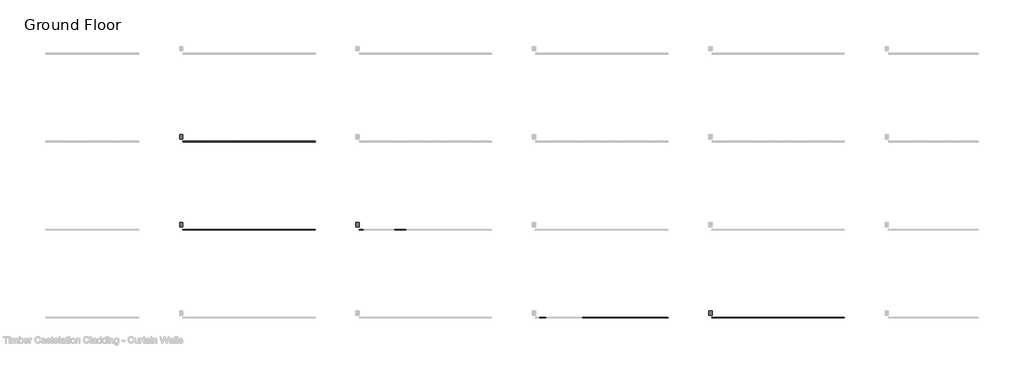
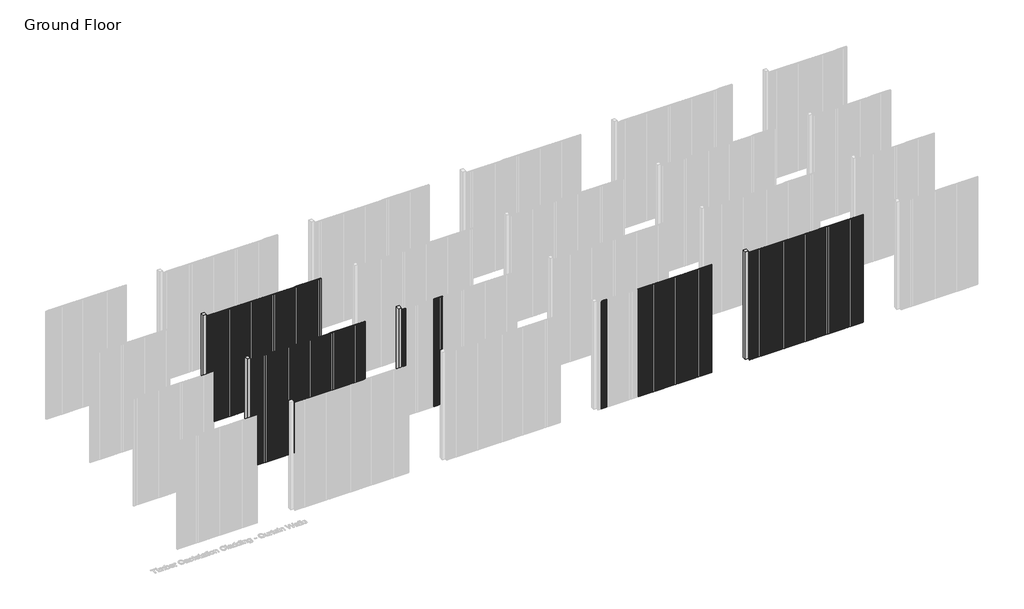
# One storey, part 40 of 350: 141 members, 4 plates.
"""IFC4 building model written with IfcOpenShell, lengths in millimetres."""

from ifc_helpers import new_model, si_unit, origin, place, context, project, spatial, transform, mapped, element, save
from components import rectangular_mullion_14973cdb, rectangular_mullion_4aa68164, rectangular_mullion_624eee80, empty_system_panel_empty_cbd4e42b

model = new_model("IFC4")

# Units and contexts
model_context = context("Model", 3, world=origin())
ifc_project = project(units=[si_unit("LENGTHUNIT", "METRE", prefix="MILLI")], contexts=[model_context])

# Site, building, storey
site = spatial("IfcSite", under=ifc_project)
building = spatial("IfcBuilding", under=site)
storey = spatial("IfcBuildingStorey", under=building, Name="Ground Floor", Elevation=0.0)

# Members
placement = place(None, origin())
rectangular_mullion_shape = rectangular_mullion_14973cdb(model_context)
element("IfcMember", 1, ObjectType="Rectangular Mullion : Cladding_Timber_Modinex_Castelation_81x18_Blackbutt", at=placement, inside=storey, context=model_context, shape_type="MappedRepresentation", body=[
    mapped(rectangular_mullion_shape, transform((34536.4361642, 24968.2978302, 0.0), x_axis=(1.0, 0.0, 0.0), y_axis=(0.0, -1.0, 0.0), z_axis=(0.0, 0.0, -1.0))),
])
element("IfcMember", 2, ObjectType="Rectangular Mullion : Cladding_Timber_Modinex_Castelation_81x18_Blackbutt", at=placement, inside=storey, context=model_context, shape_type="MappedRepresentation", body=[
    mapped(rectangular_mullion_shape, transform((34617.4361642, 24968.2978302, 0.0), x_axis=(1.0, 0.0, 0.0), y_axis=(0.0, -1.0, 0.0), z_axis=(0.0, 0.0, -1.0))),
])
element("IfcMember", 3, ObjectType="Rectangular Mullion : Cladding_Timber_Modinex_Castelation_81x18_Blackbutt", at=placement, inside=storey, context=model_context, shape_type="MappedRepresentation", body=[
    mapped(rectangular_mullion_shape, transform((34698.4361642, 24968.2978302, 0.0), x_axis=(1.0, 0.0, 0.0), y_axis=(0.0, -1.0, 0.0), z_axis=(0.0, 0.0, -1.0))),
])
element("IfcMember", 4, ObjectType="Rectangular Mullion : Cladding_Timber_Modinex_Castelation_81x18_Blackbutt", at=placement, inside=storey, context=model_context, shape_type="MappedRepresentation", body=[
    mapped(rectangular_mullion_shape, transform((34779.4361642, 24968.2978302, 0.0), x_axis=(1.0, 0.0, 0.0), y_axis=(0.0, -1.0, 0.0), z_axis=(0.0, 0.0, -1.0))),
])
element("IfcMember", 5, ObjectType="Rectangular Mullion : Cladding_Timber_Modinex_Castelation_81x18_Blackbutt", at=placement, inside=storey, context=model_context, shape_type="MappedRepresentation", body=[
    mapped(rectangular_mullion_shape, transform((34860.4361642, 24968.2978302, 0.0), x_axis=(1.0, 0.0, 0.0), y_axis=(0.0, -1.0, 0.0), z_axis=(0.0, 0.0, -1.0))),
])
element("IfcMember", 6, ObjectType="Rectangular Mullion : Cladding_Timber_Modinex_Castelation_81x18_Blackbutt", at=placement, inside=storey, context=model_context, shape_type="MappedRepresentation", body=[
    mapped(rectangular_mullion_shape, transform((34941.4361642, 24968.2978302, 0.0), x_axis=(1.0, 0.0, 0.0), y_axis=(0.0, -1.0, 0.0), z_axis=(0.0, 0.0, -1.0))),
])
element("IfcMember", 7, ObjectType="Rectangular Mullion : Cladding_Timber_Modinex_Castelation_81x18_Blackbutt", at=placement, inside=storey, context=model_context, shape_type="MappedRepresentation", body=[
    mapped(rectangular_mullion_shape, transform((35022.4361642, 24968.2978302, 0.0), x_axis=(1.0, 0.0, 0.0), y_axis=(0.0, -1.0, 0.0), z_axis=(0.0, 0.0, -1.0))),
])
element("IfcMember", 8, ObjectType="Rectangular Mullion : Cladding_Timber_Modinex_Castelation_81x18_Blackbutt", at=placement, inside=storey, context=model_context, shape_type="MappedRepresentation", body=[
    mapped(rectangular_mullion_shape, transform((35103.4361642, 24968.2978302, 0.0), x_axis=(1.0, 0.0, 0.0), y_axis=(0.0, -1.0, 0.0), z_axis=(0.0, 0.0, -1.0))),
])
element("IfcMember", 9, ObjectType="Rectangular Mullion : Cladding_Timber_Modinex_Castelation_81x18_Blackbutt", at=placement, inside=storey, context=model_context, shape_type="MappedRepresentation", body=[
    mapped(rectangular_mullion_shape, transform((35184.4361642, 24968.2978302, 0.0), x_axis=(1.0, 0.0, 0.0), y_axis=(0.0, -1.0, 0.0), z_axis=(0.0, 0.0, -1.0))),
])
element("IfcMember", 10, ObjectType="Rectangular Mullion : Cladding_Timber_Modinex_Castelation_81x18_Blackbutt", at=placement, inside=storey, context=model_context, shape_type="MappedRepresentation", body=[
    mapped(rectangular_mullion_shape, transform((35265.4361642, 24968.2978302, 0.0), x_axis=(1.0, 0.0, 0.0), y_axis=(0.0, -1.0, 0.0), z_axis=(0.0, 0.0, -1.0))),
])
element("IfcMember", 11, ObjectType="Rectangular Mullion : Cladding_Timber_Modinex_Castelation_81x18_Blackbutt", at=placement, inside=storey, context=model_context, shape_type="MappedRepresentation", body=[
    mapped(rectangular_mullion_shape, transform((35346.4361642, 24968.2978302, 0.0), x_axis=(1.0, 0.0, 0.0), y_axis=(0.0, -1.0, 0.0), z_axis=(0.0, 0.0, -1.0))),
])
element("IfcMember", 12, ObjectType="Rectangular Mullion : Cladding_Timber_Modinex_Castelation_81x18_Blackbutt", at=placement, inside=storey, context=model_context, shape_type="MappedRepresentation", body=[
    mapped(rectangular_mullion_shape, transform((35427.4361642, 24968.2978302, 0.0), x_axis=(1.0, 0.0, 0.0), y_axis=(0.0, -1.0, 0.0), z_axis=(0.0, 0.0, -1.0))),
])
element("IfcMember", 13, ObjectType="Rectangular Mullion : Cladding_Timber_Modinex_Castelation_81x18_Blackbutt", at=placement, inside=storey, context=model_context, shape_type="MappedRepresentation", body=[
    mapped(rectangular_mullion_shape, transform((35508.4361642, 24968.2978302, 0.0), x_axis=(1.0, 0.0, 0.0), y_axis=(0.0, -1.0, 0.0), z_axis=(0.0, 0.0, -1.0))),
])
element("IfcMember", 14, ObjectType="Rectangular Mullion : Cladding_Timber_Modinex_Castelation_81x18_Blackbutt", at=placement, inside=storey, context=model_context, shape_type="MappedRepresentation", body=[
    mapped(rectangular_mullion_shape, transform((35589.4361642, 24968.2978302, 0.0), x_axis=(1.0, 0.0, 0.0), y_axis=(0.0, -1.0, 0.0), z_axis=(0.0, 0.0, -1.0))),
])
element("IfcMember", 15, ObjectType="Rectangular Mullion : Cladding_Timber_Modinex_Castelation_81x18_Blackbutt", at=placement, inside=storey, context=model_context, shape_type="MappedRepresentation", body=[
    mapped(rectangular_mullion_shape, transform((35670.4361642, 24968.2978302, 0.0), x_axis=(1.0, 0.0, 0.0), y_axis=(0.0, -1.0, 0.0), z_axis=(0.0, 0.0, -1.0))),
])
element("IfcMember", 16, ObjectType="Rectangular Mullion : Cladding_Timber_Modinex_Castelation_81x18_Blackbutt", at=placement, inside=storey, context=model_context, shape_type="MappedRepresentation", body=[
    mapped(rectangular_mullion_shape, transform((35751.4361642, 24968.2978302, 0.0), x_axis=(1.0, 0.0, 0.0), y_axis=(0.0, -1.0, 0.0), z_axis=(0.0, 0.0, -1.0))),
])
element("IfcMember", 17, ObjectType="Rectangular Mullion : Cladding_Timber_Modinex_Castelation_81x18_Blackbutt", at=placement, inside=storey, context=model_context, shape_type="MappedRepresentation", body=[
    mapped(rectangular_mullion_shape, transform((35832.4361642, 24968.2978302, 0.0), x_axis=(1.0, 0.0, 0.0), y_axis=(0.0, -1.0, 0.0), z_axis=(0.0, 0.0, -1.0))),
])
element("IfcMember", 18, ObjectType="Rectangular Mullion : Cladding_Timber_Modinex_Castelation_81x18_Blackbutt", at=placement, inside=storey, context=model_context, shape_type="MappedRepresentation", body=[
    mapped(rectangular_mullion_shape, transform((35913.4361642, 24968.2978302, 0.0), x_axis=(1.0, 0.0, 0.0), y_axis=(0.0, -1.0, 0.0), z_axis=(0.0, 0.0, -1.0))),
])
element("IfcMember", 19, ObjectType="Rectangular Mullion : Cladding_Timber_Modinex_Castelation_81x18_Blackbutt", at=placement, inside=storey, context=model_context, shape_type="MappedRepresentation", body=[
    mapped(rectangular_mullion_shape, transform((34455.4361642, 24968.2978302, 0.0), x_axis=(1.0, 0.0, 0.0), y_axis=(0.0, -1.0, 0.0), z_axis=(0.0, 0.0, -1.0))),
])
element("IfcMember", 20, ObjectType="Rectangular Mullion : Cladding_Timber_Modinex_Castelation_81x18_Blackbutt", at=placement, inside=storey, context=model_context, shape_type="MappedRepresentation", body=[
    mapped(rectangular_mullion_shape, transform((34374.4361642, 24968.2978302, 0.0), x_axis=(1.0, 0.0, 0.0), y_axis=(0.0, -1.0, 0.0), z_axis=(0.0, 0.0, -1.0))),
])
element("IfcMember", 21, ObjectType="Rectangular Mullion : Cladding_Timber_Modinex_Castelation_81x18_Blackbutt", at=placement, inside=storey, context=model_context, shape_type="MappedRepresentation", body=[
    mapped(rectangular_mullion_shape, transform((34293.4361642, 24968.2978302, 0.0), x_axis=(1.0, 0.0, 0.0), y_axis=(0.0, -1.0, 0.0), z_axis=(0.0, 0.0, -1.0))),
])
element("IfcMember", 22, ObjectType="Rectangular Mullion : Cladding_Timber_Modinex_Castelation_81x18_Blackbutt", at=placement, inside=storey, context=model_context, shape_type="MappedRepresentation", body=[
    mapped(rectangular_mullion_shape, transform((34212.4361642, 24968.2978302, 0.0), x_axis=(1.0, 0.0, 0.0), y_axis=(0.0, -1.0, 0.0), z_axis=(0.0, 0.0, -1.0))),
])
element("IfcMember", 23, ObjectType="Rectangular Mullion : Cladding_Timber_Modinex_Castelation_81x18_Blackbutt", at=placement, inside=storey, context=model_context, shape_type="MappedRepresentation", body=[
    mapped(rectangular_mullion_shape, transform((34131.4361642, 24968.2978302, 0.0), x_axis=(1.0, 0.0, 0.0), y_axis=(0.0, -1.0, 0.0), z_axis=(0.0, 0.0, -1.0))),
])
element("IfcMember", 24, ObjectType="Rectangular Mullion : Cladding_Timber_Modinex_Castelation_81x18_Blackbutt", at=placement, inside=storey, context=model_context, shape_type="MappedRepresentation", body=[
    mapped(rectangular_mullion_shape, transform((34050.4361642, 24968.2978302, 0.0), x_axis=(1.0, 0.0, 0.0), y_axis=(0.0, -1.0, 0.0), z_axis=(0.0, 0.0, -1.0))),
])
element("IfcMember", 25, ObjectType="Rectangular Mullion : Cladding_Timber_Modinex_Castelation_81x18_Blackbutt", at=placement, inside=storey, context=model_context, shape_type="MappedRepresentation", body=[
    mapped(rectangular_mullion_shape, transform((33969.4361642, 24968.2978302, 0.0), x_axis=(1.0, 0.0, 0.0), y_axis=(0.0, -1.0, 0.0), z_axis=(0.0, 0.0, -1.0))),
])
element("IfcMember", 26, ObjectType="Rectangular Mullion : Cladding_Timber_Modinex_Castelation_81x18_Blackbutt", at=placement, inside=storey, context=model_context, shape_type="MappedRepresentation", body=[
    mapped(rectangular_mullion_shape, transform((33888.4361642, 24968.2978302, 0.0), x_axis=(1.0, 0.0, 0.0), y_axis=(0.0, -1.0, 0.0), z_axis=(0.0, 0.0, -1.0))),
])
element("IfcMember", 27, ObjectType="Rectangular Mullion : Cladding_Timber_Modinex_Castelation_81x18_Blackbutt", at=placement, inside=storey, context=model_context, shape_type="MappedRepresentation", body=[
    mapped(rectangular_mullion_shape, transform((33807.4361642, 24968.2978302, 0.0), x_axis=(1.0, 0.0, 0.0), y_axis=(0.0, -1.0, 0.0), z_axis=(0.0, 0.0, -1.0))),
])
element("IfcMember", 28, ObjectType="Rectangular Mullion : Cladding_Timber_Modinex_Castelation_81x18_Blackbutt", at=placement, inside=storey, context=model_context, shape_type="MappedRepresentation", body=[
    mapped(rectangular_mullion_shape, transform((33726.4361642, 24968.2978302, 0.0), x_axis=(1.0, 0.0, 0.0), y_axis=(0.0, -1.0, 0.0), z_axis=(0.0, 0.0, -1.0))),
])
element("IfcMember", 29, ObjectType="Rectangular Mullion : Cladding_Timber_Modinex_Castelation_81x18_Blackbutt", at=placement, inside=storey, context=model_context, shape_type="MappedRepresentation", body=[
    mapped(rectangular_mullion_shape, transform((33645.4361642, 24968.2978302, 0.0), x_axis=(1.0, 0.0, 0.0), y_axis=(0.0, -1.0, 0.0), z_axis=(0.0, 0.0, -1.0))),
])
element("IfcMember", 30, ObjectType="Rectangular Mullion : Cladding_Timber_Modinex_Castelation_81x18_Blackbutt", at=placement, inside=storey, context=model_context, shape_type="MappedRepresentation", body=[
    mapped(rectangular_mullion_shape, transform((33564.4361642, 24968.2978302, 0.0), x_axis=(1.0, 0.0, 0.0), y_axis=(0.0, -1.0, 0.0), z_axis=(0.0, 0.0, -1.0))),
])
element("IfcMember", 31, ObjectType="Rectangular Mullion : Cladding_Timber_Modinex_Castelation_81x18_Blackbutt", at=placement, inside=storey, context=model_context, shape_type="MappedRepresentation", body=[
    mapped(rectangular_mullion_shape, transform((33483.4361642, 24968.2978302, 0.0), x_axis=(1.0, 0.0, 0.0), y_axis=(0.0, -1.0, 0.0), z_axis=(0.0, 0.0, -1.0))),
])
element("IfcMember", 32, ObjectType="Rectangular Mullion : Cladding_Timber_Modinex_Castelation_81x18_Blackbutt", at=placement, inside=storey, context=model_context, shape_type="MappedRepresentation", body=[
    mapped(rectangular_mullion_shape, transform((33402.4361642, 24968.2978302, 0.0), x_axis=(1.0, 0.0, 0.0), y_axis=(0.0, -1.0, 0.0), z_axis=(0.0, 0.0, -1.0))),
])
element("IfcMember", 33, ObjectType="Rectangular Mullion : Cladding_Timber_Modinex_Castelation_81x18_Blackbutt", at=placement, inside=storey, context=model_context, shape_type="MappedRepresentation", body=[
    mapped(rectangular_mullion_shape, transform((33321.4361642, 24968.2978302, 0.0), x_axis=(1.0, 0.0, 0.0), y_axis=(0.0, -1.0, 0.0), z_axis=(0.0, 0.0, -1.0))),
])
element("IfcMember", 34, ObjectType="Rectangular Mullion : Cladding_Timber_Modinex_Castelation_81x18_Blackbutt", at=placement, inside=storey, context=model_context, shape_type="MappedRepresentation", body=[
    mapped(rectangular_mullion_shape, transform((33240.4361642, 24968.2978302, 0.0), x_axis=(1.0, 0.0, 0.0), y_axis=(0.0, -1.0, 0.0), z_axis=(0.0, 0.0, -1.0))),
])
element("IfcMember", 35, ObjectType="Rectangular Mullion : Cladding_Timber_Modinex_Castelation_81x18_Blackbutt", at=placement, inside=storey, context=model_context, shape_type="MappedRepresentation", body=[
    mapped(rectangular_mullion_shape, transform((33159.4361642, 24968.2978302, 0.0), x_axis=(1.0, 0.0, 0.0), y_axis=(0.0, -1.0, 0.0), z_axis=(0.0, 0.0, -1.0))),
])
element("IfcMember", 36, ObjectType="Rectangular Mullion : Cladding_Timber_Modinex_Castelation_81x18_Blackbutt", at=placement, inside=storey, context=model_context, shape_type="MappedRepresentation", body=[
    mapped(rectangular_mullion_shape, transform((33078.4361642, 24968.2978302, 0.0), x_axis=(1.0, 0.0, 0.0), y_axis=(0.0, -1.0, 0.0), z_axis=(0.0, 0.0, -1.0))),
])
element("IfcMember", 37, ObjectType="Rectangular Mullion : Cladding_Timber_Modinex_Castelation_81x18_Blackbutt", at=placement, inside=storey, context=model_context, shape_type="MappedRepresentation", body=[
    mapped(rectangular_mullion_shape, transform((32997.4361642, 24968.2978302, 0.0), x_axis=(1.0, 0.0, 0.0), y_axis=(0.0, -1.0, 0.0), z_axis=(0.0, 0.0, -1.0))),
])
rectangular_mullion_2_shape = rectangular_mullion_4aa68164(model_context)
element("IfcMember", 38, ObjectType="Rectangular Mullion : Cladding_Timber_Modinex_Castelation_81x12_Ironbark", at=placement, inside=storey, context=model_context, shape_type="MappedRepresentation", body=[
    mapped(rectangular_mullion_2_shape, transform((42536.4361642, 22968.2978302, 0.0), x_axis=(1.0, 0.0, 0.0), y_axis=(0.0, -1.0, 0.0), z_axis=(0.0, 0.0, -1.0))),
])
element("IfcMember", 39, ObjectType="Rectangular Mullion : Cladding_Timber_Modinex_Castelation_81x12_Ironbark", at=placement, inside=storey, context=model_context, shape_type="MappedRepresentation", body=[
    mapped(rectangular_mullion_2_shape, transform((42617.4361642, 22968.2978302, 0.0), x_axis=(1.0, 0.0, 0.0), y_axis=(0.0, -1.0, 0.0), z_axis=(0.0, 0.0, -1.0))),
])
element("IfcMember", 40, ObjectType="Rectangular Mullion : Cladding_Timber_Modinex_Castelation_81x12_Ironbark", at=placement, inside=storey, context=model_context, shape_type="MappedRepresentation", body=[
    mapped(rectangular_mullion_2_shape, transform((42698.4361642, 22968.2978302, 0.0), x_axis=(1.0, 0.0, 0.0), y_axis=(0.0, -1.0, 0.0), z_axis=(0.0, 0.0, -1.0))),
])
element("IfcMember", 41, ObjectType="Rectangular Mullion : Cladding_Timber_Modinex_Castelation_81x12_Ironbark", at=placement, inside=storey, context=model_context, shape_type="MappedRepresentation", body=[
    mapped(rectangular_mullion_2_shape, transform((42779.4361642, 22968.2978302, 0.0), x_axis=(1.0, 0.0, 0.0), y_axis=(0.0, -1.0, 0.0), z_axis=(0.0, 0.0, -1.0))),
])
element("IfcMember", 42, ObjectType="Rectangular Mullion : Cladding_Timber_Modinex_Castelation_81x12_Ironbark", at=placement, inside=storey, context=model_context, shape_type="MappedRepresentation", body=[
    mapped(rectangular_mullion_2_shape, transform((42860.4361642, 22968.2978302, 0.0), x_axis=(1.0, 0.0, 0.0), y_axis=(0.0, -1.0, 0.0), z_axis=(0.0, 0.0, -1.0))),
])
element("IfcMember", 43, ObjectType="Rectangular Mullion : Cladding_Timber_Modinex_Castelation_81x12_Ironbark", at=placement, inside=storey, context=model_context, shape_type="MappedRepresentation", body=[
    mapped(rectangular_mullion_2_shape, transform((42941.4361642, 22968.2978302, 0.0), x_axis=(1.0, 0.0, 0.0), y_axis=(0.0, -1.0, 0.0), z_axis=(0.0, 0.0, -1.0))),
])
element("IfcMember", 44, ObjectType="Rectangular Mullion : Cladding_Timber_Modinex_Castelation_81x12_Ironbark", at=placement, inside=storey, context=model_context, shape_type="MappedRepresentation", body=[
    mapped(rectangular_mullion_2_shape, transform((43022.4361642, 22968.2978302, 0.0), x_axis=(1.0, 0.0, 0.0), y_axis=(0.0, -1.0, 0.0), z_axis=(0.0, 0.0, -1.0))),
])
element("IfcMember", 45, ObjectType="Rectangular Mullion : Cladding_Timber_Modinex_Castelation_81x12_Ironbark", at=placement, inside=storey, context=model_context, shape_type="MappedRepresentation", body=[
    mapped(rectangular_mullion_2_shape, transform((43103.4361642, 22968.2978302, 0.0), x_axis=(1.0, 0.0, 0.0), y_axis=(0.0, -1.0, 0.0), z_axis=(0.0, 0.0, -1.0))),
])
element("IfcMember", 46, ObjectType="Rectangular Mullion : Cladding_Timber_Modinex_Castelation_81x12_Ironbark", at=placement, inside=storey, context=model_context, shape_type="MappedRepresentation", body=[
    mapped(rectangular_mullion_2_shape, transform((43184.4361642, 22968.2978302, 0.0), x_axis=(1.0, 0.0, 0.0), y_axis=(0.0, -1.0, 0.0), z_axis=(0.0, 0.0, -1.0))),
])
element("IfcMember", 47, ObjectType="Rectangular Mullion : Cladding_Timber_Modinex_Castelation_81x12_Ironbark", at=placement, inside=storey, context=model_context, shape_type="MappedRepresentation", body=[
    mapped(rectangular_mullion_2_shape, transform((43265.4361642, 22968.2978302, 0.0), x_axis=(1.0, 0.0, 0.0), y_axis=(0.0, -1.0, 0.0), z_axis=(0.0, 0.0, -1.0))),
])
element("IfcMember", 48, ObjectType="Rectangular Mullion : Cladding_Timber_Modinex_Castelation_81x12_Ironbark", at=placement, inside=storey, context=model_context, shape_type="MappedRepresentation", body=[
    mapped(rectangular_mullion_2_shape, transform((43346.4361642, 22968.2978302, 0.0), x_axis=(1.0, 0.0, 0.0), y_axis=(0.0, -1.0, 0.0), z_axis=(0.0, 0.0, -1.0))),
])
element("IfcMember", 49, ObjectType="Rectangular Mullion : Cladding_Timber_Modinex_Castelation_81x12_Ironbark", at=placement, inside=storey, context=model_context, shape_type="MappedRepresentation", body=[
    mapped(rectangular_mullion_2_shape, transform((43427.4361642, 22968.2978302, 0.0), x_axis=(1.0, 0.0, 0.0), y_axis=(0.0, -1.0, 0.0), z_axis=(0.0, 0.0, -1.0))),
])
element("IfcMember", 50, ObjectType="Rectangular Mullion : Cladding_Timber_Modinex_Castelation_81x12_Ironbark", at=placement, inside=storey, context=model_context, shape_type="MappedRepresentation", body=[
    mapped(rectangular_mullion_2_shape, transform((43508.4361642, 22968.2978302, 0.0), x_axis=(1.0, 0.0, 0.0), y_axis=(0.0, -1.0, 0.0), z_axis=(0.0, 0.0, -1.0))),
])
element("IfcMember", 51, ObjectType="Rectangular Mullion : Cladding_Timber_Modinex_Castelation_81x12_Ironbark", at=placement, inside=storey, context=model_context, shape_type="MappedRepresentation", body=[
    mapped(rectangular_mullion_2_shape, transform((43589.4361642, 22968.2978302, 0.0), x_axis=(1.0, 0.0, 0.0), y_axis=(0.0, -1.0, 0.0), z_axis=(0.0, 0.0, -1.0))),
])
element("IfcMember", 52, ObjectType="Rectangular Mullion : Cladding_Timber_Modinex_Castelation_81x12_Ironbark", at=placement, inside=storey, context=model_context, shape_type="MappedRepresentation", body=[
    mapped(rectangular_mullion_2_shape, transform((43670.4361642, 22968.2978302, 0.0), x_axis=(1.0, 0.0, 0.0), y_axis=(0.0, -1.0, 0.0), z_axis=(0.0, 0.0, -1.0))),
])
element("IfcMember", 53, ObjectType="Rectangular Mullion : Cladding_Timber_Modinex_Castelation_81x12_Ironbark", at=placement, inside=storey, context=model_context, shape_type="MappedRepresentation", body=[
    mapped(rectangular_mullion_2_shape, transform((43751.4361642, 22968.2978302, 0.0), x_axis=(1.0, 0.0, 0.0), y_axis=(0.0, -1.0, 0.0), z_axis=(0.0, 0.0, -1.0))),
])
element("IfcMember", 54, ObjectType="Rectangular Mullion : Cladding_Timber_Modinex_Castelation_81x12_Ironbark", at=placement, inside=storey, context=model_context, shape_type="MappedRepresentation", body=[
    mapped(rectangular_mullion_2_shape, transform((43832.4361642, 22968.2978302, 0.0), x_axis=(1.0, 0.0, 0.0), y_axis=(0.0, -1.0, 0.0), z_axis=(0.0, 0.0, -1.0))),
])
element("IfcMember", 55, ObjectType="Rectangular Mullion : Cladding_Timber_Modinex_Castelation_81x12_Ironbark", at=placement, inside=storey, context=model_context, shape_type="MappedRepresentation", body=[
    mapped(rectangular_mullion_2_shape, transform((43913.4361642, 22968.2978302, 0.0), x_axis=(1.0, 0.0, 0.0), y_axis=(0.0, -1.0, 0.0), z_axis=(0.0, 0.0, -1.0))),
])
element("IfcMember", 56, ObjectType="Rectangular Mullion : Cladding_Timber_Modinex_Castelation_81x12_Ironbark", at=placement, inside=storey, context=model_context, shape_type="MappedRepresentation", body=[
    mapped(rectangular_mullion_2_shape, transform((42455.4361642, 22968.2978302, 0.0), x_axis=(1.0, 0.0, 0.0), y_axis=(0.0, -1.0, 0.0), z_axis=(0.0, 0.0, -1.0))),
])
element("IfcMember", 57, ObjectType="Rectangular Mullion : Cladding_Timber_Modinex_Castelation_81x12_Ironbark", at=placement, inside=storey, context=model_context, shape_type="MappedRepresentation", body=[
    mapped(rectangular_mullion_2_shape, transform((42374.4361642, 22968.2978302, 0.0), x_axis=(1.0, 0.0, 0.0), y_axis=(0.0, -1.0, 0.0), z_axis=(0.0, 0.0, -1.0))),
])
element("IfcMember", 58, ObjectType="Rectangular Mullion : Cladding_Timber_Modinex_Castelation_81x12_Ironbark", at=placement, inside=storey, context=model_context, shape_type="MappedRepresentation", body=[
    mapped(rectangular_mullion_2_shape, transform((42293.4361642, 22968.2978302, 0.0), x_axis=(1.0, 0.0, 0.0), y_axis=(0.0, -1.0, 0.0), z_axis=(0.0, 0.0, -1.0))),
])
element("IfcMember", 59, ObjectType="Rectangular Mullion : Cladding_Timber_Modinex_Castelation_81x12_Ironbark", at=placement, inside=storey, context=model_context, shape_type="MappedRepresentation", body=[
    mapped(rectangular_mullion_2_shape, transform((42212.4361642, 22968.2978302, 0.0), x_axis=(1.0, 0.0, 0.0), y_axis=(0.0, -1.0, 0.0), z_axis=(0.0, 0.0, -1.0))),
])
element("IfcMember", 60, ObjectType="Rectangular Mullion : Cladding_Timber_Modinex_Castelation_81x12_Ironbark", at=placement, inside=storey, context=model_context, shape_type="MappedRepresentation", body=[
    mapped(rectangular_mullion_2_shape, transform((42131.4361642, 22968.2978302, 0.0), x_axis=(1.0, 0.0, 0.0), y_axis=(0.0, -1.0, 0.0), z_axis=(0.0, 0.0, -1.0))),
])
element("IfcMember", 61, ObjectType="Rectangular Mullion : Cladding_Timber_Modinex_Castelation_81x12_Ironbark", at=placement, inside=storey, context=model_context, shape_type="MappedRepresentation", body=[
    mapped(rectangular_mullion_2_shape, transform((42050.4361642, 22968.2978302, 0.0), x_axis=(1.0, 0.0, 0.0), y_axis=(0.0, -1.0, 0.0), z_axis=(0.0, 0.0, -1.0))),
])
element("IfcMember", 62, ObjectType="Rectangular Mullion : Cladding_Timber_Modinex_Castelation_81x12_Ironbark", at=placement, inside=storey, context=model_context, shape_type="MappedRepresentation", body=[
    mapped(rectangular_mullion_2_shape, transform((41159.4361642, 22968.2978302, 0.0), x_axis=(1.0, 0.0, 0.0), y_axis=(0.0, -1.0, 0.0), z_axis=(0.0, 0.0, -1.0))),
])
element("IfcMember", 63, ObjectType="Rectangular Mullion : Cladding_Timber_Modinex_Castelation_81x12_Ironbark", at=placement, inside=storey, context=model_context, shape_type="MappedRepresentation", body=[
    mapped(rectangular_mullion_2_shape, transform((41078.4361642, 22968.2978302, 0.0), x_axis=(1.0, 0.0, 0.0), y_axis=(0.0, -1.0, 0.0), z_axis=(0.0, 0.0, -1.0))),
])
element("IfcMember", 64, ObjectType="Rectangular Mullion : Cladding_Timber_Modinex_Castelation_81x12_SpottedGum", at=placement, inside=storey, context=model_context, shape_type="MappedRepresentation", body=[
    mapped(rectangular_mullion_2_shape, transform((46536.4361642, 22968.2978302, 0.0), x_axis=(1.0, 0.0, 0.0), y_axis=(0.0, -1.0, 0.0), z_axis=(0.0, 0.0, -1.0))),
])
element("IfcMember", 65, ObjectType="Rectangular Mullion : Cladding_Timber_Modinex_Castelation_81x12_SpottedGum", at=placement, inside=storey, context=model_context, shape_type="MappedRepresentation", body=[
    mapped(rectangular_mullion_2_shape, transform((46617.4361642, 22968.2978302, 0.0), x_axis=(1.0, 0.0, 0.0), y_axis=(0.0, -1.0, 0.0), z_axis=(0.0, 0.0, -1.0))),
])
element("IfcMember", 66, ObjectType="Rectangular Mullion : Cladding_Timber_Modinex_Castelation_81x12_SpottedGum", at=placement, inside=storey, context=model_context, shape_type="MappedRepresentation", body=[
    mapped(rectangular_mullion_2_shape, transform((46698.4361642, 22968.2978302, 0.0), x_axis=(1.0, 0.0, 0.0), y_axis=(0.0, -1.0, 0.0), z_axis=(0.0, 0.0, -1.0))),
])
element("IfcMember", 67, ObjectType="Rectangular Mullion : Cladding_Timber_Modinex_Castelation_81x12_SpottedGum", at=placement, inside=storey, context=model_context, shape_type="MappedRepresentation", body=[
    mapped(rectangular_mullion_2_shape, transform((46779.4361642, 22968.2978302, 0.0), x_axis=(1.0, 0.0, 0.0), y_axis=(0.0, -1.0, 0.0), z_axis=(0.0, 0.0, -1.0))),
])
element("IfcMember", 68, ObjectType="Rectangular Mullion : Cladding_Timber_Modinex_Castelation_81x12_SpottedGum", at=placement, inside=storey, context=model_context, shape_type="MappedRepresentation", body=[
    mapped(rectangular_mullion_2_shape, transform((46860.4361642, 22968.2978302, 0.0), x_axis=(1.0, 0.0, 0.0), y_axis=(0.0, -1.0, 0.0), z_axis=(0.0, 0.0, -1.0))),
])
element("IfcMember", 69, ObjectType="Rectangular Mullion : Cladding_Timber_Modinex_Castelation_81x12_SpottedGum", at=placement, inside=storey, context=model_context, shape_type="MappedRepresentation", body=[
    mapped(rectangular_mullion_2_shape, transform((46941.4361642, 22968.2978302, 0.0), x_axis=(1.0, 0.0, 0.0), y_axis=(0.0, -1.0, 0.0), z_axis=(0.0, 0.0, -1.0))),
])
element("IfcMember", 70, ObjectType="Rectangular Mullion : Cladding_Timber_Modinex_Castelation_81x12_SpottedGum", at=placement, inside=storey, context=model_context, shape_type="MappedRepresentation", body=[
    mapped(rectangular_mullion_2_shape, transform((47022.4361642, 22968.2978302, 0.0), x_axis=(1.0, 0.0, 0.0), y_axis=(0.0, -1.0, 0.0), z_axis=(0.0, 0.0, -1.0))),
])
element("IfcMember", 71, ObjectType="Rectangular Mullion : Cladding_Timber_Modinex_Castelation_81x12_SpottedGum", at=placement, inside=storey, context=model_context, shape_type="MappedRepresentation", body=[
    mapped(rectangular_mullion_2_shape, transform((47103.4361642, 22968.2978302, 0.0), x_axis=(1.0, 0.0, 0.0), y_axis=(0.0, -1.0, 0.0), z_axis=(0.0, 0.0, -1.0))),
])
element("IfcMember", 72, ObjectType="Rectangular Mullion : Cladding_Timber_Modinex_Castelation_81x12_SpottedGum", at=placement, inside=storey, context=model_context, shape_type="MappedRepresentation", body=[
    mapped(rectangular_mullion_2_shape, transform((47184.4361642, 22968.2978302, 0.0), x_axis=(1.0, 0.0, 0.0), y_axis=(0.0, -1.0, 0.0), z_axis=(0.0, 0.0, -1.0))),
])
element("IfcMember", 73, ObjectType="Rectangular Mullion : Cladding_Timber_Modinex_Castelation_81x12_SpottedGum", at=placement, inside=storey, context=model_context, shape_type="MappedRepresentation", body=[
    mapped(rectangular_mullion_2_shape, transform((47265.4361642, 22968.2978302, 0.0), x_axis=(1.0, 0.0, 0.0), y_axis=(0.0, -1.0, 0.0), z_axis=(0.0, 0.0, -1.0))),
])
element("IfcMember", 74, ObjectType="Rectangular Mullion : Cladding_Timber_Modinex_Castelation_81x12_SpottedGum", at=placement, inside=storey, context=model_context, shape_type="MappedRepresentation", body=[
    mapped(rectangular_mullion_2_shape, transform((47346.4361642, 22968.2978302, 0.0), x_axis=(1.0, 0.0, 0.0), y_axis=(0.0, -1.0, 0.0), z_axis=(0.0, 0.0, -1.0))),
])
element("IfcMember", 75, ObjectType="Rectangular Mullion : Cladding_Timber_Modinex_Castelation_81x12_SpottedGum", at=placement, inside=storey, context=model_context, shape_type="MappedRepresentation", body=[
    mapped(rectangular_mullion_2_shape, transform((47427.4361642, 22968.2978302, 0.0), x_axis=(1.0, 0.0, 0.0), y_axis=(0.0, -1.0, 0.0), z_axis=(0.0, 0.0, -1.0))),
])
element("IfcMember", 76, ObjectType="Rectangular Mullion : Cladding_Timber_Modinex_Castelation_81x12_SpottedGum", at=placement, inside=storey, context=model_context, shape_type="MappedRepresentation", body=[
    mapped(rectangular_mullion_2_shape, transform((47508.4361642, 22968.2978302, 0.0), x_axis=(1.0, 0.0, 0.0), y_axis=(0.0, -1.0, 0.0), z_axis=(0.0, 0.0, -1.0))),
])
element("IfcMember", 77, ObjectType="Rectangular Mullion : Cladding_Timber_Modinex_Castelation_81x12_SpottedGum", at=placement, inside=storey, context=model_context, shape_type="MappedRepresentation", body=[
    mapped(rectangular_mullion_2_shape, transform((47589.4361642, 22968.2978302, 0.0), x_axis=(1.0, 0.0, 0.0), y_axis=(0.0, -1.0, 0.0), z_axis=(0.0, 0.0, -1.0))),
])
element("IfcMember", 78, ObjectType="Rectangular Mullion : Cladding_Timber_Modinex_Castelation_81x12_SpottedGum", at=placement, inside=storey, context=model_context, shape_type="MappedRepresentation", body=[
    mapped(rectangular_mullion_2_shape, transform((47670.4361642, 22968.2978302, 0.0), x_axis=(1.0, 0.0, 0.0), y_axis=(0.0, -1.0, 0.0), z_axis=(0.0, 0.0, -1.0))),
])
element("IfcMember", 79, ObjectType="Rectangular Mullion : Cladding_Timber_Modinex_Castelation_81x12_SpottedGum", at=placement, inside=storey, context=model_context, shape_type="MappedRepresentation", body=[
    mapped(rectangular_mullion_2_shape, transform((47751.4361642, 22968.2978302, 0.0), x_axis=(1.0, 0.0, 0.0), y_axis=(0.0, -1.0, 0.0), z_axis=(0.0, 0.0, -1.0))),
])
element("IfcMember", 80, ObjectType="Rectangular Mullion : Cladding_Timber_Modinex_Castelation_81x12_SpottedGum", at=placement, inside=storey, context=model_context, shape_type="MappedRepresentation", body=[
    mapped(rectangular_mullion_2_shape, transform((47832.4361642, 22968.2978302, 0.0), x_axis=(1.0, 0.0, 0.0), y_axis=(0.0, -1.0, 0.0), z_axis=(0.0, 0.0, -1.0))),
])
element("IfcMember", 81, ObjectType="Rectangular Mullion : Cladding_Timber_Modinex_Castelation_81x12_SpottedGum", at=placement, inside=storey, context=model_context, shape_type="MappedRepresentation", body=[
    mapped(rectangular_mullion_2_shape, transform((47913.4361642, 22968.2978302, 0.0), x_axis=(1.0, 0.0, 0.0), y_axis=(0.0, -1.0, 0.0), z_axis=(0.0, 0.0, -1.0))),
])
element("IfcMember", 82, ObjectType="Rectangular Mullion : Cladding_Timber_Modinex_Castelation_81x12_SpottedGum", at=placement, inside=storey, context=model_context, shape_type="MappedRepresentation", body=[
    mapped(rectangular_mullion_2_shape, transform((46455.4361642, 22968.2978302, 0.0), x_axis=(1.0, 0.0, 0.0), y_axis=(0.0, -1.0, 0.0), z_axis=(0.0, 0.0, -1.0))),
])
element("IfcMember", 83, ObjectType="Rectangular Mullion : Cladding_Timber_Modinex_Castelation_81x12_SpottedGum", at=placement, inside=storey, context=model_context, shape_type="MappedRepresentation", body=[
    mapped(rectangular_mullion_2_shape, transform((46374.4361642, 22968.2978302, 0.0), x_axis=(1.0, 0.0, 0.0), y_axis=(0.0, -1.0, 0.0), z_axis=(0.0, 0.0, -1.0))),
])
element("IfcMember", 84, ObjectType="Rectangular Mullion : Cladding_Timber_Modinex_Castelation_81x12_SpottedGum", at=placement, inside=storey, context=model_context, shape_type="MappedRepresentation", body=[
    mapped(rectangular_mullion_2_shape, transform((46293.4361642, 22968.2978302, 0.0), x_axis=(1.0, 0.0, 0.0), y_axis=(0.0, -1.0, 0.0), z_axis=(0.0, 0.0, -1.0))),
])
element("IfcMember", 85, ObjectType="Rectangular Mullion : Cladding_Timber_Modinex_Castelation_81x12_SpottedGum", at=placement, inside=storey, context=model_context, shape_type="MappedRepresentation", body=[
    mapped(rectangular_mullion_2_shape, transform((46212.4361642, 22968.2978302, 0.0), x_axis=(1.0, 0.0, 0.0), y_axis=(0.0, -1.0, 0.0), z_axis=(0.0, 0.0, -1.0))),
])
element("IfcMember", 86, ObjectType="Rectangular Mullion : Cladding_Timber_Modinex_Castelation_81x12_SpottedGum", at=placement, inside=storey, context=model_context, shape_type="MappedRepresentation", body=[
    mapped(rectangular_mullion_2_shape, transform((46131.4361642, 22968.2978302, 0.0), x_axis=(1.0, 0.0, 0.0), y_axis=(0.0, -1.0, 0.0), z_axis=(0.0, 0.0, -1.0))),
])
element("IfcMember", 87, ObjectType="Rectangular Mullion : Cladding_Timber_Modinex_Castelation_81x12_SpottedGum", at=placement, inside=storey, context=model_context, shape_type="MappedRepresentation", body=[
    mapped(rectangular_mullion_2_shape, transform((46050.4361642, 22968.2978302, 0.0), x_axis=(1.0, 0.0, 0.0), y_axis=(0.0, -1.0, 0.0), z_axis=(0.0, 0.0, -1.0))),
])
element("IfcMember", 88, ObjectType="Rectangular Mullion : Cladding_Timber_Modinex_Castelation_81x12_SpottedGum", at=placement, inside=storey, context=model_context, shape_type="MappedRepresentation", body=[
    mapped(rectangular_mullion_2_shape, transform((45969.4361642, 22968.2978302, 0.0), x_axis=(1.0, 0.0, 0.0), y_axis=(0.0, -1.0, 0.0), z_axis=(0.0, 0.0, -1.0))),
])
element("IfcMember", 89, ObjectType="Rectangular Mullion : Cladding_Timber_Modinex_Castelation_81x12_SpottedGum", at=placement, inside=storey, context=model_context, shape_type="MappedRepresentation", body=[
    mapped(rectangular_mullion_2_shape, transform((45888.4361642, 22968.2978302, 0.0), x_axis=(1.0, 0.0, 0.0), y_axis=(0.0, -1.0, 0.0), z_axis=(0.0, 0.0, -1.0))),
])
element("IfcMember", 90, ObjectType="Rectangular Mullion : Cladding_Timber_Modinex_Castelation_81x12_SpottedGum", at=placement, inside=storey, context=model_context, shape_type="MappedRepresentation", body=[
    mapped(rectangular_mullion_2_shape, transform((45807.4361642, 22968.2978302, 0.0), x_axis=(1.0, 0.0, 0.0), y_axis=(0.0, -1.0, 0.0), z_axis=(0.0, 0.0, -1.0))),
])
element("IfcMember", 91, ObjectType="Rectangular Mullion : Cladding_Timber_Modinex_Castelation_81x12_SpottedGum", at=placement, inside=storey, context=model_context, shape_type="MappedRepresentation", body=[
    mapped(rectangular_mullion_2_shape, transform((45726.4361642, 22968.2978302, 0.0), x_axis=(1.0, 0.0, 0.0), y_axis=(0.0, -1.0, 0.0), z_axis=(0.0, 0.0, -1.0))),
])
element("IfcMember", 92, ObjectType="Rectangular Mullion : Cladding_Timber_Modinex_Castelation_81x12_SpottedGum", at=placement, inside=storey, context=model_context, shape_type="MappedRepresentation", body=[
    mapped(rectangular_mullion_2_shape, transform((45645.4361642, 22968.2978302, 0.0), x_axis=(1.0, 0.0, 0.0), y_axis=(0.0, -1.0, 0.0), z_axis=(0.0, 0.0, -1.0))),
])
element("IfcMember", 93, ObjectType="Rectangular Mullion : Cladding_Timber_Modinex_Castelation_81x12_SpottedGum", at=placement, inside=storey, context=model_context, shape_type="MappedRepresentation", body=[
    mapped(rectangular_mullion_2_shape, transform((45564.4361642, 22968.2978302, 0.0), x_axis=(1.0, 0.0, 0.0), y_axis=(0.0, -1.0, 0.0), z_axis=(0.0, 0.0, -1.0))),
])
element("IfcMember", 94, ObjectType="Rectangular Mullion : Cladding_Timber_Modinex_Castelation_81x12_SpottedGum", at=placement, inside=storey, context=model_context, shape_type="MappedRepresentation", body=[
    mapped(rectangular_mullion_2_shape, transform((45483.4361642, 22968.2978302, 0.0), x_axis=(1.0, 0.0, 0.0), y_axis=(0.0, -1.0, 0.0), z_axis=(0.0, 0.0, -1.0))),
])
element("IfcMember", 95, ObjectType="Rectangular Mullion : Cladding_Timber_Modinex_Castelation_81x12_SpottedGum", at=placement, inside=storey, context=model_context, shape_type="MappedRepresentation", body=[
    mapped(rectangular_mullion_2_shape, transform((45402.4361642, 22968.2978302, 0.0), x_axis=(1.0, 0.0, 0.0), y_axis=(0.0, -1.0, 0.0), z_axis=(0.0, 0.0, -1.0))),
])
element("IfcMember", 96, ObjectType="Rectangular Mullion : Cladding_Timber_Modinex_Castelation_81x12_SpottedGum", at=placement, inside=storey, context=model_context, shape_type="MappedRepresentation", body=[
    mapped(rectangular_mullion_2_shape, transform((45321.4361642, 22968.2978302, 0.0), x_axis=(1.0, 0.0, 0.0), y_axis=(0.0, -1.0, 0.0), z_axis=(0.0, 0.0, -1.0))),
])
element("IfcMember", 97, ObjectType="Rectangular Mullion : Cladding_Timber_Modinex_Castelation_81x12_SpottedGum", at=placement, inside=storey, context=model_context, shape_type="MappedRepresentation", body=[
    mapped(rectangular_mullion_2_shape, transform((45240.4361642, 22968.2978302, 0.0), x_axis=(1.0, 0.0, 0.0), y_axis=(0.0, -1.0, 0.0), z_axis=(0.0, 0.0, -1.0))),
])
element("IfcMember", 98, ObjectType="Rectangular Mullion : Cladding_Timber_Modinex_Castelation_81x12_SpottedGum", at=placement, inside=storey, context=model_context, shape_type="MappedRepresentation", body=[
    mapped(rectangular_mullion_2_shape, transform((45159.4361642, 22968.2978302, 0.0), x_axis=(1.0, 0.0, 0.0), y_axis=(0.0, -1.0, 0.0), z_axis=(0.0, 0.0, -1.0))),
])
element("IfcMember", 99, ObjectType="Rectangular Mullion : Cladding_Timber_Modinex_Castelation_81x12_SpottedGum", at=placement, inside=storey, context=model_context, shape_type="MappedRepresentation", body=[
    mapped(rectangular_mullion_2_shape, transform((45078.4361642, 22968.2978302, 0.0), x_axis=(1.0, 0.0, 0.0), y_axis=(0.0, -1.0, 0.0), z_axis=(0.0, 0.0, -1.0))),
])
element("IfcMember", 100, ObjectType="Rectangular Mullion : Cladding_Timber_Modinex_Castelation_81x12_SpottedGum", at=placement, inside=storey, context=model_context, shape_type="MappedRepresentation", body=[
    mapped(rectangular_mullion_2_shape, transform((44997.4361642, 22968.2978302, 0.0), x_axis=(1.0, 0.0, 0.0), y_axis=(0.0, -1.0, 0.0), z_axis=(0.0, 0.0, -1.0))),
])
element("IfcMember", 101, ObjectType="Rectangular Mullion : Cladding_Timber_Modinex_Castelation_81x18_Hemlock", at=placement, inside=storey, context=model_context, shape_type="MappedRepresentation", body=[
    mapped(rectangular_mullion_shape, transform((37969.4361642, 24968.2978302, 0.0), x_axis=(1.0, 0.0, 0.0), y_axis=(0.0, -1.0, 0.0), z_axis=(0.0, 0.0, -1.0))),
])
element("IfcMember", 102, ObjectType="Rectangular Mullion : Cladding_Timber_Modinex_Castelation_81x18_Hemlock", at=placement, inside=storey, context=model_context, shape_type="MappedRepresentation", body=[
    mapped(rectangular_mullion_shape, transform((37888.4361642, 24968.2978302, 0.0), x_axis=(1.0, 0.0, 0.0), y_axis=(0.0, -1.0, 0.0), z_axis=(0.0, 0.0, -1.0))),
])
element("IfcMember", 103, ObjectType="Rectangular Mullion : Cladding_Timber_Modinex_Castelation_81x18_Hemlock", at=placement, inside=storey, context=model_context, shape_type="MappedRepresentation", body=[
    mapped(rectangular_mullion_shape, transform((37807.4361642, 24968.2978302, 0.0), x_axis=(1.0, 0.0, 0.0), y_axis=(0.0, -1.0, 0.0), z_axis=(0.0, 0.0, -1.0))),
])
element("IfcMember", 104, ObjectType="Rectangular Mullion : Cladding_Timber_Modinex_Castelation_81x18_Hemlock", at=placement, inside=storey, context=model_context, shape_type="MappedRepresentation", body=[
    mapped(rectangular_mullion_shape, transform((36997.4361642, 24968.2978302, 0.0), x_axis=(1.0, 0.0, 0.0), y_axis=(0.0, -1.0, 0.0), z_axis=(0.0, 0.0, -1.0))),
])
rectangular_mullion_3_shape = rectangular_mullion_624eee80(model_context)
element("IfcMember", 105, ObjectType="Rectangular Mullion : Cladding_Timber_Modinex_Castelation_81x21_Blackbutt", at=placement, inside=storey, context=model_context, shape_type="MappedRepresentation", body=[
    mapped(rectangular_mullion_3_shape, transform((34536.4361642, 26968.2978302, 0.0), x_axis=(1.0, 0.0, 0.0), y_axis=(0.0, -1.0, 0.0), z_axis=(0.0, 0.0, -1.0))),
])
element("IfcMember", 106, ObjectType="Rectangular Mullion : Cladding_Timber_Modinex_Castelation_81x21_Blackbutt", at=placement, inside=storey, context=model_context, shape_type="MappedRepresentation", body=[
    mapped(rectangular_mullion_3_shape, transform((34617.4361642, 26968.2978302, 0.0), x_axis=(1.0, 0.0, 0.0), y_axis=(0.0, -1.0, 0.0), z_axis=(0.0, 0.0, -1.0))),
])
element("IfcMember", 107, ObjectType="Rectangular Mullion : Cladding_Timber_Modinex_Castelation_81x21_Blackbutt", at=placement, inside=storey, context=model_context, shape_type="MappedRepresentation", body=[
    mapped(rectangular_mullion_3_shape, transform((34698.4361642, 26968.2978302, 0.0), x_axis=(1.0, 0.0, 0.0), y_axis=(0.0, -1.0, 0.0), z_axis=(0.0, 0.0, -1.0))),
])
element("IfcMember", 108, ObjectType="Rectangular Mullion : Cladding_Timber_Modinex_Castelation_81x21_Blackbutt", at=placement, inside=storey, context=model_context, shape_type="MappedRepresentation", body=[
    mapped(rectangular_mullion_3_shape, transform((34779.4361642, 26968.2978302, 0.0), x_axis=(1.0, 0.0, 0.0), y_axis=(0.0, -1.0, 0.0), z_axis=(0.0, 0.0, -1.0))),
])
element("IfcMember", 109, ObjectType="Rectangular Mullion : Cladding_Timber_Modinex_Castelation_81x21_Blackbutt", at=placement, inside=storey, context=model_context, shape_type="MappedRepresentation", body=[
    mapped(rectangular_mullion_3_shape, transform((34860.4361642, 26968.2978302, 0.0), x_axis=(1.0, 0.0, 0.0), y_axis=(0.0, -1.0, 0.0), z_axis=(0.0, 0.0, -1.0))),
])
element("IfcMember", 110, ObjectType="Rectangular Mullion : Cladding_Timber_Modinex_Castelation_81x21_Blackbutt", at=placement, inside=storey, context=model_context, shape_type="MappedRepresentation", body=[
    mapped(rectangular_mullion_3_shape, transform((34941.4361642, 26968.2978302, 0.0), x_axis=(1.0, 0.0, 0.0), y_axis=(0.0, -1.0, 0.0), z_axis=(0.0, 0.0, -1.0))),
])
element("IfcMember", 111, ObjectType="Rectangular Mullion : Cladding_Timber_Modinex_Castelation_81x21_Blackbutt", at=placement, inside=storey, context=model_context, shape_type="MappedRepresentation", body=[
    mapped(rectangular_mullion_3_shape, transform((35022.4361642, 26968.2978302, 0.0), x_axis=(1.0, 0.0, 0.0), y_axis=(0.0, -1.0, 0.0), z_axis=(0.0, 0.0, -1.0))),
])
element("IfcMember", 112, ObjectType="Rectangular Mullion : Cladding_Timber_Modinex_Castelation_81x21_Blackbutt", at=placement, inside=storey, context=model_context, shape_type="MappedRepresentation", body=[
    mapped(rectangular_mullion_3_shape, transform((35103.4361642, 26968.2978302, 0.0), x_axis=(1.0, 0.0, 0.0), y_axis=(0.0, -1.0, 0.0), z_axis=(0.0, 0.0, -1.0))),
])
element("IfcMember", 113, ObjectType="Rectangular Mullion : Cladding_Timber_Modinex_Castelation_81x21_Blackbutt", at=placement, inside=storey, context=model_context, shape_type="MappedRepresentation", body=[
    mapped(rectangular_mullion_3_shape, transform((35184.4361642, 26968.2978302, 0.0), x_axis=(1.0, 0.0, 0.0), y_axis=(0.0, -1.0, 0.0), z_axis=(0.0, 0.0, -1.0))),
])
element("IfcMember", 114, ObjectType="Rectangular Mullion : Cladding_Timber_Modinex_Castelation_81x21_Blackbutt", at=placement, inside=storey, context=model_context, shape_type="MappedRepresentation", body=[
    mapped(rectangular_mullion_3_shape, transform((35265.4361642, 26968.2978302, 0.0), x_axis=(1.0, 0.0, 0.0), y_axis=(0.0, -1.0, 0.0), z_axis=(0.0, 0.0, -1.0))),
])
element("IfcMember", 115, ObjectType="Rectangular Mullion : Cladding_Timber_Modinex_Castelation_81x21_Blackbutt", at=placement, inside=storey, context=model_context, shape_type="MappedRepresentation", body=[
    mapped(rectangular_mullion_3_shape, transform((35346.4361642, 26968.2978302, 0.0), x_axis=(1.0, 0.0, 0.0), y_axis=(0.0, -1.0, 0.0), z_axis=(0.0, 0.0, -1.0))),
])
element("IfcMember", 116, ObjectType="Rectangular Mullion : Cladding_Timber_Modinex_Castelation_81x21_Blackbutt", at=placement, inside=storey, context=model_context, shape_type="MappedRepresentation", body=[
    mapped(rectangular_mullion_3_shape, transform((35427.4361642, 26968.2978302, 0.0), x_axis=(1.0, 0.0, 0.0), y_axis=(0.0, -1.0, 0.0), z_axis=(0.0, 0.0, -1.0))),
])
element("IfcMember", 117, ObjectType="Rectangular Mullion : Cladding_Timber_Modinex_Castelation_81x21_Blackbutt", at=placement, inside=storey, context=model_context, shape_type="MappedRepresentation", body=[
    mapped(rectangular_mullion_3_shape, transform((35508.4361642, 26968.2978302, 0.0), x_axis=(1.0, 0.0, 0.0), y_axis=(0.0, -1.0, 0.0), z_axis=(0.0, 0.0, -1.0))),
])
element("IfcMember", 118, ObjectType="Rectangular Mullion : Cladding_Timber_Modinex_Castelation_81x21_Blackbutt", at=placement, inside=storey, context=model_context, shape_type="MappedRepresentation", body=[
    mapped(rectangular_mullion_3_shape, transform((35589.4361642, 26968.2978302, 0.0), x_axis=(1.0, 0.0, 0.0), y_axis=(0.0, -1.0, 0.0), z_axis=(0.0, 0.0, -1.0))),
])
element("IfcMember", 119, ObjectType="Rectangular Mullion : Cladding_Timber_Modinex_Castelation_81x21_Blackbutt", at=placement, inside=storey, context=model_context, shape_type="MappedRepresentation", body=[
    mapped(rectangular_mullion_3_shape, transform((35670.4361642, 26968.2978302, 0.0), x_axis=(1.0, 0.0, 0.0), y_axis=(0.0, -1.0, 0.0), z_axis=(0.0, 0.0, -1.0))),
])
element("IfcMember", 120, ObjectType="Rectangular Mullion : Cladding_Timber_Modinex_Castelation_81x21_Blackbutt", at=placement, inside=storey, context=model_context, shape_type="MappedRepresentation", body=[
    mapped(rectangular_mullion_3_shape, transform((35751.4361642, 26968.2978302, 0.0), x_axis=(1.0, 0.0, 0.0), y_axis=(0.0, -1.0, 0.0), z_axis=(0.0, 0.0, -1.0))),
])
element("IfcMember", 121, ObjectType="Rectangular Mullion : Cladding_Timber_Modinex_Castelation_81x21_Blackbutt", at=placement, inside=storey, context=model_context, shape_type="MappedRepresentation", body=[
    mapped(rectangular_mullion_3_shape, transform((35832.4361642, 26968.2978302, 0.0), x_axis=(1.0, 0.0, 0.0), y_axis=(0.0, -1.0, 0.0), z_axis=(0.0, 0.0, -1.0))),
])
element("IfcMember", 122, ObjectType="Rectangular Mullion : Cladding_Timber_Modinex_Castelation_81x21_Blackbutt", at=placement, inside=storey, context=model_context, shape_type="MappedRepresentation", body=[
    mapped(rectangular_mullion_3_shape, transform((35913.4361642, 26968.2978302, 0.0), x_axis=(1.0, 0.0, 0.0), y_axis=(0.0, -1.0, 0.0), z_axis=(0.0, 0.0, -1.0))),
])
element("IfcMember", 123, ObjectType="Rectangular Mullion : Cladding_Timber_Modinex_Castelation_81x21_Blackbutt", at=placement, inside=storey, context=model_context, shape_type="MappedRepresentation", body=[
    mapped(rectangular_mullion_3_shape, transform((34455.4361642, 26968.2978302, 0.0), x_axis=(1.0, 0.0, 0.0), y_axis=(0.0, -1.0, 0.0), z_axis=(0.0, 0.0, -1.0))),
])
element("IfcMember", 124, ObjectType="Rectangular Mullion : Cladding_Timber_Modinex_Castelation_81x21_Blackbutt", at=placement, inside=storey, context=model_context, shape_type="MappedRepresentation", body=[
    mapped(rectangular_mullion_3_shape, transform((34374.4361642, 26968.2978302, 0.0), x_axis=(1.0, 0.0, 0.0), y_axis=(0.0, -1.0, 0.0), z_axis=(0.0, 0.0, -1.0))),
])
element("IfcMember", 125, ObjectType="Rectangular Mullion : Cladding_Timber_Modinex_Castelation_81x21_Blackbutt", at=placement, inside=storey, context=model_context, shape_type="MappedRepresentation", body=[
    mapped(rectangular_mullion_3_shape, transform((34293.4361642, 26968.2978302, 0.0), x_axis=(1.0, 0.0, 0.0), y_axis=(0.0, -1.0, 0.0), z_axis=(0.0, 0.0, -1.0))),
])
element("IfcMember", 126, ObjectType="Rectangular Mullion : Cladding_Timber_Modinex_Castelation_81x21_Blackbutt", at=placement, inside=storey, context=model_context, shape_type="MappedRepresentation", body=[
    mapped(rectangular_mullion_3_shape, transform((34212.4361642, 26968.2978302, 0.0), x_axis=(1.0, 0.0, 0.0), y_axis=(0.0, -1.0, 0.0), z_axis=(0.0, 0.0, -1.0))),
])
element("IfcMember", 127, ObjectType="Rectangular Mullion : Cladding_Timber_Modinex_Castelation_81x21_Blackbutt", at=placement, inside=storey, context=model_context, shape_type="MappedRepresentation", body=[
    mapped(rectangular_mullion_3_shape, transform((34131.4361642, 26968.2978302, 0.0), x_axis=(1.0, 0.0, 0.0), y_axis=(0.0, -1.0, 0.0), z_axis=(0.0, 0.0, -1.0))),
])
element("IfcMember", 128, ObjectType="Rectangular Mullion : Cladding_Timber_Modinex_Castelation_81x21_Blackbutt", at=placement, inside=storey, context=model_context, shape_type="MappedRepresentation", body=[
    mapped(rectangular_mullion_3_shape, transform((34050.4361642, 26968.2978302, 0.0), x_axis=(1.0, 0.0, 0.0), y_axis=(0.0, -1.0, 0.0), z_axis=(0.0, 0.0, -1.0))),
])
element("IfcMember", 129, ObjectType="Rectangular Mullion : Cladding_Timber_Modinex_Castelation_81x21_Blackbutt", at=placement, inside=storey, context=model_context, shape_type="MappedRepresentation", body=[
    mapped(rectangular_mullion_3_shape, transform((33969.4361642, 26968.2978302, 0.0), x_axis=(1.0, 0.0, 0.0), y_axis=(0.0, -1.0, 0.0), z_axis=(0.0, 0.0, -1.0))),
])
element("IfcMember", 130, ObjectType="Rectangular Mullion : Cladding_Timber_Modinex_Castelation_81x21_Blackbutt", at=placement, inside=storey, context=model_context, shape_type="MappedRepresentation", body=[
    mapped(rectangular_mullion_3_shape, transform((33888.4361642, 26968.2978302, 0.0), x_axis=(1.0, 0.0, 0.0), y_axis=(0.0, -1.0, 0.0), z_axis=(0.0, 0.0, -1.0))),
])
element("IfcMember", 131, ObjectType="Rectangular Mullion : Cladding_Timber_Modinex_Castelation_81x21_Blackbutt", at=placement, inside=storey, context=model_context, shape_type="MappedRepresentation", body=[
    mapped(rectangular_mullion_3_shape, transform((33807.4361642, 26968.2978302, 0.0), x_axis=(1.0, 0.0, 0.0), y_axis=(0.0, -1.0, 0.0), z_axis=(0.0, 0.0, -1.0))),
])
element("IfcMember", 132, ObjectType="Rectangular Mullion : Cladding_Timber_Modinex_Castelation_81x21_Blackbutt", at=placement, inside=storey, context=model_context, shape_type="MappedRepresentation", body=[
    mapped(rectangular_mullion_3_shape, transform((33726.4361642, 26968.2978302, 0.0), x_axis=(1.0, 0.0, 0.0), y_axis=(0.0, -1.0, 0.0), z_axis=(0.0, 0.0, -1.0))),
])
element("IfcMember", 133, ObjectType="Rectangular Mullion : Cladding_Timber_Modinex_Castelation_81x21_Blackbutt", at=placement, inside=storey, context=model_context, shape_type="MappedRepresentation", body=[
    mapped(rectangular_mullion_3_shape, transform((33645.4361642, 26968.2978302, 0.0), x_axis=(1.0, 0.0, 0.0), y_axis=(0.0, -1.0, 0.0), z_axis=(0.0, 0.0, -1.0))),
])
element("IfcMember", 134, ObjectType="Rectangular Mullion : Cladding_Timber_Modinex_Castelation_81x21_Blackbutt", at=placement, inside=storey, context=model_context, shape_type="MappedRepresentation", body=[
    mapped(rectangular_mullion_3_shape, transform((33564.4361642, 26968.2978302, 0.0), x_axis=(1.0, 0.0, 0.0), y_axis=(0.0, -1.0, 0.0), z_axis=(0.0, 0.0, -1.0))),
])
element("IfcMember", 135, ObjectType="Rectangular Mullion : Cladding_Timber_Modinex_Castelation_81x21_Blackbutt", at=placement, inside=storey, context=model_context, shape_type="MappedRepresentation", body=[
    mapped(rectangular_mullion_3_shape, transform((33483.4361642, 26968.2978302, 0.0), x_axis=(1.0, 0.0, 0.0), y_axis=(0.0, -1.0, 0.0), z_axis=(0.0, 0.0, -1.0))),
])
element("IfcMember", 136, ObjectType="Rectangular Mullion : Cladding_Timber_Modinex_Castelation_81x21_Blackbutt", at=placement, inside=storey, context=model_context, shape_type="MappedRepresentation", body=[
    mapped(rectangular_mullion_3_shape, transform((33402.4361642, 26968.2978302, 0.0), x_axis=(1.0, 0.0, 0.0), y_axis=(0.0, -1.0, 0.0), z_axis=(0.0, 0.0, -1.0))),
])
element("IfcMember", 137, ObjectType="Rectangular Mullion : Cladding_Timber_Modinex_Castelation_81x21_Blackbutt", at=placement, inside=storey, context=model_context, shape_type="MappedRepresentation", body=[
    mapped(rectangular_mullion_3_shape, transform((33321.4361642, 26968.2978302, 0.0), x_axis=(1.0, 0.0, 0.0), y_axis=(0.0, -1.0, 0.0), z_axis=(0.0, 0.0, -1.0))),
])
element("IfcMember", 138, ObjectType="Rectangular Mullion : Cladding_Timber_Modinex_Castelation_81x21_Blackbutt", at=placement, inside=storey, context=model_context, shape_type="MappedRepresentation", body=[
    mapped(rectangular_mullion_3_shape, transform((33240.4361642, 26968.2978302, 0.0), x_axis=(1.0, 0.0, 0.0), y_axis=(0.0, -1.0, 0.0), z_axis=(0.0, 0.0, -1.0))),
])
element("IfcMember", 139, ObjectType="Rectangular Mullion : Cladding_Timber_Modinex_Castelation_81x21_Blackbutt", at=placement, inside=storey, context=model_context, shape_type="MappedRepresentation", body=[
    mapped(rectangular_mullion_3_shape, transform((33159.4361642, 26968.2978302, 0.0), x_axis=(1.0, 0.0, 0.0), y_axis=(0.0, -1.0, 0.0), z_axis=(0.0, 0.0, -1.0))),
])
element("IfcMember", 140, ObjectType="Rectangular Mullion : Cladding_Timber_Modinex_Castelation_81x21_Blackbutt", at=placement, inside=storey, context=model_context, shape_type="MappedRepresentation", body=[
    mapped(rectangular_mullion_3_shape, transform((33078.4361642, 26968.2978302, 0.0), x_axis=(1.0, 0.0, 0.0), y_axis=(0.0, -1.0, 0.0), z_axis=(0.0, 0.0, -1.0))),
])
element("IfcMember", 141, ObjectType="Rectangular Mullion : Cladding_Timber_Modinex_Castelation_81x21_Blackbutt", at=placement, inside=storey, context=model_context, shape_type="MappedRepresentation", body=[
    mapped(rectangular_mullion_3_shape, transform((32997.4361642, 26968.2978302, 0.0), x_axis=(1.0, 0.0, 0.0), y_axis=(0.0, -1.0, 0.0), z_axis=(0.0, 0.0, -1.0))),
])

# Plates
empty_system_panel_empty_shape = empty_system_panel_empty_cbd4e42b(model_context)
element("IfcPlate", 142, ObjectType="Empty System Panel : Empty", at=placement, inside=storey, context=model_context, shape_type="MappedRepresentation", body=[
    mapped(empty_system_panel_empty_shape, transform((44954.4602384, 22968.2978302, 0.0), x_axis=(1.0, 0.0, 0.0), y_axis=(0.0, 1.0, 0.0), z_axis=(0.0, 0.0, 1.0))),
])
element("IfcPlate", 143, ObjectType="Empty System Panel : Empty", at=placement, inside=storey, context=model_context, shape_type="MappedRepresentation", body=[
    mapped(empty_system_panel_empty_shape, transform((32954.4602384, 24968.2978302, 0.0), x_axis=(1.0, 0.0, 0.0), y_axis=(0.0, 1.0, 0.0), z_axis=(0.0, 0.0, 1.0))),
])
element("IfcPlate", 144, ObjectType="Empty System Panel : Empty", at=placement, inside=storey, context=model_context, shape_type="MappedRepresentation", body=[
    mapped(empty_system_panel_empty_shape, transform((36954.4602384, 24968.2978302, 0.0), x_axis=(1.0, 0.0, 0.0), y_axis=(0.0, 1.0, 0.0), z_axis=(0.0, 0.0, 1.0))),
])
element("IfcPlate", 145, ObjectType="Empty System Panel : Empty", at=placement, inside=storey, context=model_context, shape_type="MappedRepresentation", body=[
    mapped(empty_system_panel_empty_shape, transform((32954.4602384, 26968.2978302, 0.0), x_axis=(1.0, 0.0, 0.0), y_axis=(0.0, 1.0, 0.0), z_axis=(0.0, 0.0, 1.0))),
])

save(model, "model.ifc")
